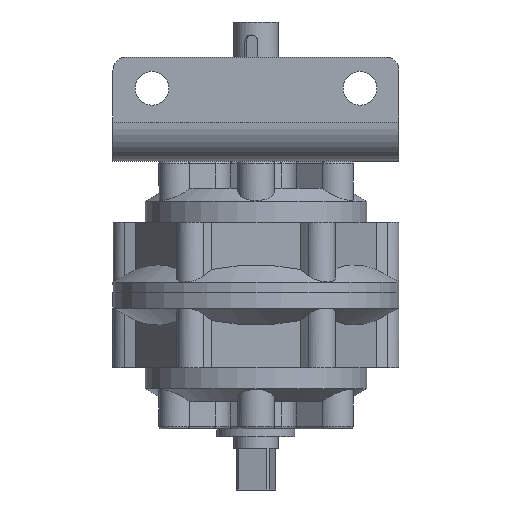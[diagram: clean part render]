
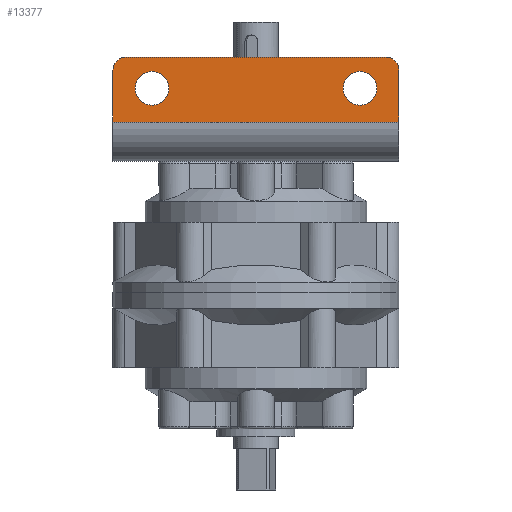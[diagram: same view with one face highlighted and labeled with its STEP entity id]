
A CAD part, front view. The second image highlights one B-rep face of the part: STEP entity #13377.
In plain terms, the highlighted planar face has unit normal (0, -1, 0).
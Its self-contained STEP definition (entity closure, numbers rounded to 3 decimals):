
#136 = DIRECTION ( 'NONE',  ( 0., 0., -1. ) ) ;
#204 = CARTESIAN_POINT ( 'NONE',  ( -40., -65., 24.5 ) ) ;
#461 = VERTEX_POINT ( 'NONE', #16212 ) ;
#529 = CARTESIAN_POINT ( 'NONE',  ( 40., -65., 18. ) ) ;
#571 = DIRECTION ( 'NONE',  ( 1., 0., 0. ) ) ;
#694 = EDGE_CURVE ( 'NONE', #461, #17672, #13361, .T. ) ;
#1181 = VERTEX_POINT ( 'NONE', #7791 ) ;
#1209 = DIRECTION ( 'NONE',  ( 0., 0., -1. ) ) ;
#1256 = EDGE_LOOP ( 'NONE', ( #6553, #16957, #2563, #6899, #5101, #9948 ) ) ;
#1421 = DIRECTION ( 'NONE',  ( 0., -1., 0. ) ) ;
#1905 = LINE ( 'NONE', #7232, #5151 ) ;
#2124 = ORIENTED_EDGE ( 'NONE', *, *, #9518, .T. ) ;
#2482 = AXIS2_PLACEMENT_3D ( 'NONE', #14077, #17540, #15665 ) ;
#2563 = ORIENTED_EDGE ( 'NONE', *, *, #6432, .T. ) ;
#2625 = EDGE_CURVE ( 'NONE', #17233, #17926, #19027, .T. ) ;
#2648 = VERTEX_POINT ( 'NONE', #204 ) ;
#2799 = EDGE_CURVE ( 'NONE', #16268, #4008, #4310, .T. ) ;
#3281 = DIRECTION ( 'NONE',  ( 0., 0., -1. ) ) ;
#3321 = EDGE_CURVE ( 'NONE', #19041, #2648, #7333, .T. ) ;
#3569 = EDGE_CURVE ( 'NONE', #1181, #17926, #6656, .T. ) ;
#4008 = VERTEX_POINT ( 'NONE', #10619 ) ;
#4279 = CARTESIAN_POINT ( 'NONE',  ( -40., -65., 18. ) ) ;
#4310 = CIRCLE ( 'NONE', #9161, 6.5 ) ;
#4544 = VERTEX_POINT ( 'NONE', #7634 ) ;
#4933 = DIRECTION ( 'NONE',  ( 0., 0., -1. ) ) ;
#5101 = ORIENTED_EDGE ( 'NONE', *, *, #3569, .F. ) ;
#5151 = VECTOR ( 'NONE', #14588, 1000. ) ;
#5161 = CIRCLE ( 'NONE', #14530, 6.5 ) ;
#5662 = LINE ( 'NONE', #18408, #12999 ) ;
#6432 = EDGE_CURVE ( 'NONE', #17672, #17233, #1905, .T. ) ;
#6553 = ORIENTED_EDGE ( 'NONE', *, *, #8264, .F. ) ;
#6602 = ORIENTED_EDGE ( 'NONE', *, *, #2799, .T. ) ;
#6612 = CARTESIAN_POINT ( 'NONE',  ( -40., -65., 11.5 ) ) ;
#6656 = LINE ( 'NONE', #9422, #12139 ) ;
#6899 = ORIENTED_EDGE ( 'NONE', *, *, #2625, .T. ) ;
#7232 = CARTESIAN_POINT ( 'NONE',  ( 55., -65., -10. ) ) ;
#7333 = CIRCLE ( 'NONE', #8677, 6.5 ) ;
#7634 = CARTESIAN_POINT ( 'NONE',  ( -55., -65., 25. ) ) ;
#7743 = CARTESIAN_POINT ( 'NONE',  ( -55., -65., -10. ) ) ;
#7791 = CARTESIAN_POINT ( 'NONE',  ( -50., -65., 30. ) ) ;
#7876 = PLANE ( 'NONE',  #18014 ) ;
#8264 = EDGE_CURVE ( 'NONE', #461, #4544, #5662, .T. ) ;
#8331 = CARTESIAN_POINT ( 'NONE',  ( 55., -65., 25. ) ) ;
#8677 = AXIS2_PLACEMENT_3D ( 'NONE', #4279, #1421, #14360 ) ;
#8971 = CARTESIAN_POINT ( 'NONE',  ( 50., -65., 25. ) ) ;
#9029 = DIRECTION ( 'NONE',  ( 0., -1., 0. ) ) ;
#9161 = AXIS2_PLACEMENT_3D ( 'NONE', #529, #11036, #4933 ) ;
#9261 = CARTESIAN_POINT ( 'NONE',  ( 40., -65., 18. ) ) ;
#9422 = CARTESIAN_POINT ( 'NONE',  ( -55., -65., 30. ) ) ;
#9502 = CARTESIAN_POINT ( 'NONE',  ( 50., -65., 30. ) ) ;
#9518 = EDGE_CURVE ( 'NONE', #4008, #16268, #5161, .T. ) ;
#9852 = FACE_BOUND ( 'NONE', #18136, .T. ) ;
#9860 = DIRECTION ( 'NONE',  ( 0., -1., 0. ) ) ;
#9948 = ORIENTED_EDGE ( 'NONE', *, *, #18677, .T. ) ;
#10619 = CARTESIAN_POINT ( 'NONE',  ( 40., -65., 24.5 ) ) ;
#10752 = ORIENTED_EDGE ( 'NONE', *, *, #12067, .F. ) ;
#10767 = AXIS2_PLACEMENT_3D ( 'NONE', #17416, #9860, #1209 ) ;
#11036 = DIRECTION ( 'NONE',  ( 0., 1., 0. ) ) ;
#11668 = FACE_BOUND ( 'NONE', #15639, .T. ) ;
#12067 = EDGE_CURVE ( 'NONE', #2648, #19041, #13322, .T. ) ;
#12139 = VECTOR ( 'NONE', #15372, 1000. ) ;
#12291 = CARTESIAN_POINT ( 'NONE',  ( 55., -65., 5. ) ) ;
#12473 = ORIENTED_EDGE ( 'NONE', *, *, #3321, .F. ) ;
#12495 = DIRECTION ( 'NONE',  ( 0., 0., 1. ) ) ;
#12999 = VECTOR ( 'NONE', #12495, 1000. ) ;
#13322 = CIRCLE ( 'NONE', #2482, 6.5 ) ;
#13361 = LINE ( 'NONE', #12291, #15416 ) ;
#13377 = ADVANCED_FACE ( 'NONE', ( #13744, #11668, #9852 ), #7876, .T. ) ;
#13484 = DIRECTION ( 'NONE',  ( 0., 1., 0. ) ) ;
#13574 = DIRECTION ( 'NONE',  ( 0., 0., -1. ) ) ;
#13744 = FACE_OUTER_BOUND ( 'NONE', #1256, .T. ) ;
#14077 = CARTESIAN_POINT ( 'NONE',  ( -40., -65., 18. ) ) ;
#14360 = DIRECTION ( 'NONE',  ( 0., 0., -1. ) ) ;
#14530 = AXIS2_PLACEMENT_3D ( 'NONE', #9261, #13484, #3281 ) ;
#14588 = DIRECTION ( 'NONE',  ( 0., 0., 1. ) ) ;
#15372 = DIRECTION ( 'NONE',  ( 1., 0., 0. ) ) ;
#15416 = VECTOR ( 'NONE', #571, 1000. ) ;
#15639 = EDGE_LOOP ( 'NONE', ( #10752, #12473 ) ) ;
#15665 = DIRECTION ( 'NONE',  ( 0., 0., -1. ) ) ;
#16094 = CARTESIAN_POINT ( 'NONE',  ( 55., -65., 5. ) ) ;
#16212 = CARTESIAN_POINT ( 'NONE',  ( -55., -65., 5. ) ) ;
#16268 = VERTEX_POINT ( 'NONE', #18896 ) ;
#16551 = CIRCLE ( 'NONE', #10767, 5. ) ;
#16957 = ORIENTED_EDGE ( 'NONE', *, *, #694, .T. ) ;
#17233 = VERTEX_POINT ( 'NONE', #8331 ) ;
#17416 = CARTESIAN_POINT ( 'NONE',  ( -50., -65., 25. ) ) ;
#17540 = DIRECTION ( 'NONE',  ( 0., -1., 0. ) ) ;
#17633 = AXIS2_PLACEMENT_3D ( 'NONE', #8971, #9029, #136 ) ;
#17672 = VERTEX_POINT ( 'NONE', #16094 ) ;
#17926 = VERTEX_POINT ( 'NONE', #9502 ) ;
#18014 = AXIS2_PLACEMENT_3D ( 'NONE', #7743, #18127, #13574 ) ;
#18127 = DIRECTION ( 'NONE',  ( 0., -1., 0. ) ) ;
#18136 = EDGE_LOOP ( 'NONE', ( #2124, #6602 ) ) ;
#18408 = CARTESIAN_POINT ( 'NONE',  ( -55., -65., -10. ) ) ;
#18677 = EDGE_CURVE ( 'NONE', #1181, #4544, #16551, .T. ) ;
#18896 = CARTESIAN_POINT ( 'NONE',  ( 40., -65., 11.5 ) ) ;
#19027 = CIRCLE ( 'NONE', #17633, 5. ) ;
#19041 = VERTEX_POINT ( 'NONE', #6612 ) ;
